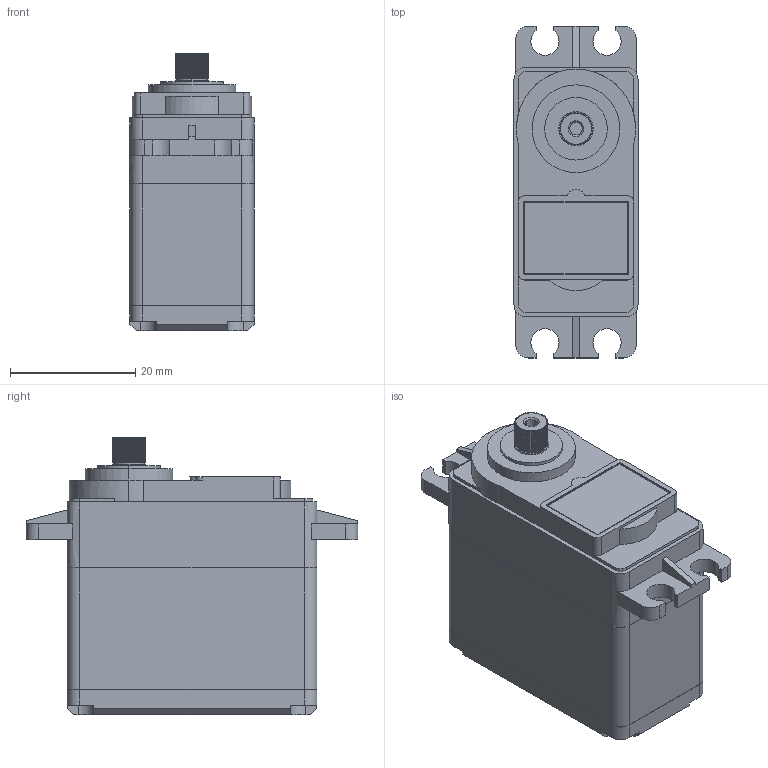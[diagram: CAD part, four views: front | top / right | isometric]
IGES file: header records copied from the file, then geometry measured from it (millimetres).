
Start section: SolidWorks IGES file using NURBS representation for surfaces
Global section: file name: C:\Users\Utente\Desktop\SERVO.IGS; native system: SolidWorks 2012; preprocessor: SolidWorks 2012; author: Utente; date: 140111.205747; units: millimetre
Bounding box: 19.81 x 52.98 x 44.24 mm (x, y, z)
Volume: 29672.4 mm3; surface area: 10256.7 mm2
Topology: 5 solids, 5 shells, 330 faces, 905 edges, 592 vertices
Faces by surface type: bspline 330
